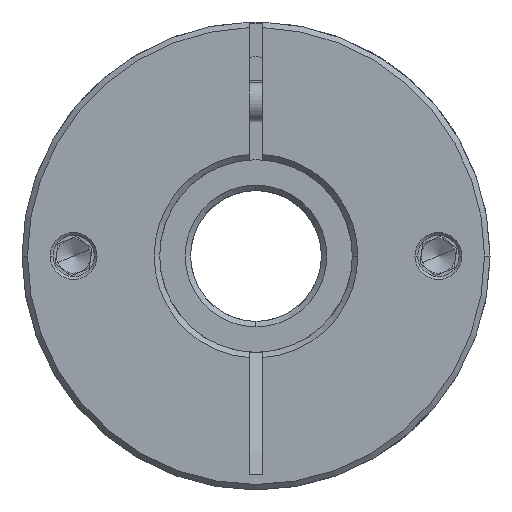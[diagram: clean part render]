
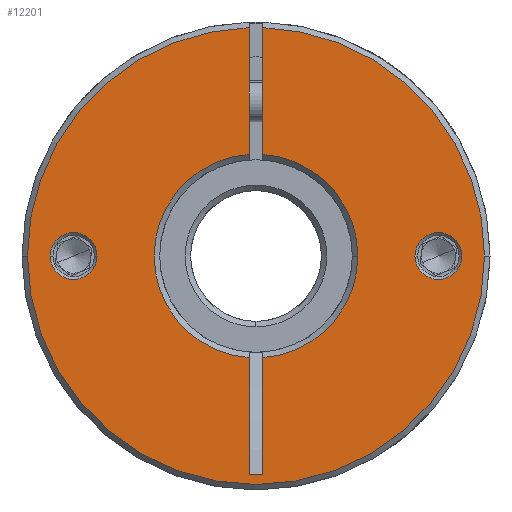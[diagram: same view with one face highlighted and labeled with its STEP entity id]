
A CAD part, front view. The second image highlights one B-rep face of the part: STEP entity #12201.
In plain terms, the highlighted planar face has unit normal (0, -1, 0).
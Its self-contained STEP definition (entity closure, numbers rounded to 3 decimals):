
#10 = EDGE_LOOP ( 'NONE', ( #7851, #4300, #3504, #9979, #8979, #4829, #10048, #733, #3011, #3412, #1187 ) ) ;
#64 = DIRECTION ( 'NONE',  ( 0., 1., 0. ) ) ;
#73 = LINE ( 'NONE', #7085, #3783 ) ;
#106 = LINE ( 'NONE', #2255, #5099 ) ;
#141 = ORIENTED_EDGE ( 'NONE', *, *, #3343, .T. ) ;
#446 = CARTESIAN_POINT ( 'NONE',  ( 23.765, -47.045, 68. ) ) ;
#479 = VERTEX_POINT ( 'NONE', #6414 ) ;
#710 = DIRECTION ( 'NONE',  ( -1., 0., 0. ) ) ;
#733 = ORIENTED_EDGE ( 'NONE', *, *, #12853, .T. ) ;
#823 = AXIS2_PLACEMENT_3D ( 'NONE', #9856, #1696, #11023 ) ;
#876 = CIRCLE ( 'NONE', #10418, 33.2 ) ;
#980 = DIRECTION ( 'NONE',  ( 1., 0., 0. ) ) ;
#1012 = CIRCLE ( 'NONE', #2108, 14.8 ) ;
#1187 = ORIENTED_EDGE ( 'NONE', *, *, #6849, .T. ) ;
#1213 = CARTESIAN_POINT ( 'NONE',  ( -3.735, -47.045, 36.279 ) ) ;
#1422 = DIRECTION ( 'NONE',  ( 0., 0., -1. ) ) ;
#1473 = DIRECTION ( 'NONE',  ( 0., 1., 0. ) ) ;
#1696 = DIRECTION ( 'NONE',  ( 0., 1., 0. ) ) ;
#1790 = EDGE_CURVE ( 'NONE', #3158, #3177, #10876, .T. ) ;
#1852 = VERTEX_POINT ( 'NONE', #8829 ) ;
#2065 = DIRECTION ( 'NONE',  ( 1., 0., 0. ) ) ;
#2071 = LINE ( 'NONE', #11244, #6917 ) ;
#2084 = EDGE_CURVE ( 'NONE', #1852, #13047, #4268, .T. ) ;
#2108 = AXIS2_PLACEMENT_3D ( 'NONE', #10658, #1473, #5470 ) ;
#2138 = FACE_BOUND ( 'NONE', #4310, .T. ) ;
#2154 = VERTEX_POINT ( 'NONE', #8608 ) ;
#2231 = VERTEX_POINT ( 'NONE', #10934 ) ;
#2255 = CARTESIAN_POINT ( 'NONE',  ( -3.735, -47.045, 68. ) ) ;
#2416 = VECTOR ( 'NONE', #1422, 1000. ) ;
#2523 = VERTEX_POINT ( 'NONE', #13441 ) ;
#2673 = DIRECTION ( 'NONE',  ( 0., -1., 0. ) ) ;
#2854 = AXIS2_PLACEMENT_3D ( 'NONE', #11821, #2673, #4611 ) ;
#2899 = EDGE_CURVE ( 'NONE', #6843, #10646, #3431, .T. ) ;
#3008 = DIRECTION ( 'NONE',  ( 1., 0., 0. ) ) ;
#3011 = ORIENTED_EDGE ( 'NONE', *, *, #9696, .T. ) ;
#3158 = VERTEX_POINT ( 'NONE', #10567 ) ;
#3177 = VERTEX_POINT ( 'NONE', #6468 ) ;
#3247 = EDGE_CURVE ( 'NONE', #2154, #5672, #1012, .T. ) ;
#3343 = EDGE_CURVE ( 'NONE', #13061, #2231, #4240, .T. ) ;
#3412 = ORIENTED_EDGE ( 'NONE', *, *, #2084, .F. ) ;
#3431 = CIRCLE ( 'NONE', #12196, 3.4 ) ;
#3504 = ORIENTED_EDGE ( 'NONE', *, *, #1790, .T. ) ;
#3552 = DIRECTION ( 'NONE',  ( 0., 1., 0. ) ) ;
#3743 = EDGE_CURVE ( 'NONE', #2231, #13061, #5985, .T. ) ;
#3783 = VECTOR ( 'NONE', #6101, 1000. ) ;
#3823 = DIRECTION ( 'NONE',  ( 1., 0., 0. ) ) ;
#3908 = AXIS2_PLACEMENT_3D ( 'NONE', #8986, #13100, #4724 ) ;
#3940 = CARTESIAN_POINT ( 'NONE',  ( -3.735, -47.045, 101.185 ) ) ;
#4090 = DIRECTION ( 'NONE',  ( 0., 1., 0. ) ) ;
#4240 = CIRCLE ( 'NONE', #823, 3.4 ) ;
#4261 = EDGE_CURVE ( 'NONE', #479, #2523, #6937, .T. ) ;
#4268 = LINE ( 'NONE', #5552, #10905 ) ;
#4300 = ORIENTED_EDGE ( 'NONE', *, *, #10392, .T. ) ;
#4310 = EDGE_LOOP ( 'NONE', ( #12724, #141 ) ) ;
#4611 = DIRECTION ( 'NONE',  ( 1., 0., 0. ) ) ;
#4724 = DIRECTION ( 'NONE',  ( 1., 0., 0. ) ) ;
#4829 = ORIENTED_EDGE ( 'NONE', *, *, #5399, .T. ) ;
#5083 = EDGE_LOOP ( 'NONE', ( #10043, #11097 ) ) ;
#5099 = VECTOR ( 'NONE', #7283, 1000. ) ;
#5181 = DIRECTION ( 'NONE',  ( 0., 1., 0. ) ) ;
#5399 = EDGE_CURVE ( 'NONE', #2523, #2154, #8248, .T. ) ;
#5456 = CIRCLE ( 'NONE', #3908, 33.2 ) ;
#5470 = DIRECTION ( 'NONE',  ( 1., 0., 0. ) ) ;
#5552 = CARTESIAN_POINT ( 'NONE',  ( -3.735, -47.045, 68. ) ) ;
#5672 = VERTEX_POINT ( 'NONE', #10064 ) ;
#5705 = DIRECTION ( 'NONE',  ( 1., 0., 0. ) ) ;
#5765 = DIRECTION ( 'NONE',  ( 1., 0., 0. ) ) ;
#5981 = CARTESIAN_POINT ( 'NONE',  ( -2.735, -47.045, 68. ) ) ;
#5985 = CIRCLE ( 'NONE', #6229, 3.4 ) ;
#6101 = DIRECTION ( 'NONE',  ( 0., 0., -1. ) ) ;
#6229 = AXIS2_PLACEMENT_3D ( 'NONE', #446, #3552, #5705 ) ;
#6276 = AXIS2_PLACEMENT_3D ( 'NONE', #9205, #4090, #3008 ) ;
#6414 = CARTESIAN_POINT ( 'NONE',  ( -1.735, -47.045, 101.185 ) ) ;
#6468 = CARTESIAN_POINT ( 'NONE',  ( 30.465, -47.045, 68. ) ) ;
#6661 = EDGE_CURVE ( 'NONE', #11693, #12918, #106, .T. ) ;
#6843 = VERTEX_POINT ( 'NONE', #7593 ) ;
#6849 = EDGE_CURVE ( 'NONE', #1852, #12918, #10637, .T. ) ;
#6917 = VECTOR ( 'NONE', #710, 1000. ) ;
#6937 = LINE ( 'NONE', #7540, #2416 ) ;
#7085 = CARTESIAN_POINT ( 'NONE',  ( -1.735, -47.045, 68. ) ) ;
#7275 = DIRECTION ( 'NONE',  ( 0., -1., 0. ) ) ;
#7283 = DIRECTION ( 'NONE',  ( 0., 0., -1. ) ) ;
#7540 = CARTESIAN_POINT ( 'NONE',  ( -1.735, -47.045, 68. ) ) ;
#7593 = CARTESIAN_POINT ( 'NONE',  ( -32.635, -47.045, 68. ) ) ;
#7706 = CARTESIAN_POINT ( 'NONE',  ( -25.835, -47.045, 68. ) ) ;
#7829 = FACE_OUTER_BOUND ( 'NONE', #10, .T. ) ;
#7851 = ORIENTED_EDGE ( 'NONE', *, *, #6661, .F. ) ;
#8090 = DIRECTION ( 'NONE',  ( 0., -1., 0. ) ) ;
#8248 = CIRCLE ( 'NONE', #10711, 14.8 ) ;
#8268 = CARTESIAN_POINT ( 'NONE',  ( -1.735, -47.045, 36.279 ) ) ;
#8433 = CARTESIAN_POINT ( 'NONE',  ( -2.735, -47.045, 68. ) ) ;
#8608 = CARTESIAN_POINT ( 'NONE',  ( 12.065, -47.045, 68. ) ) ;
#8642 = FACE_BOUND ( 'NONE', #5083, .T. ) ;
#8829 = CARTESIAN_POINT ( 'NONE',  ( -3.735, -47.045, 53.234 ) ) ;
#8979 = ORIENTED_EDGE ( 'NONE', *, *, #4261, .T. ) ;
#8986 = CARTESIAN_POINT ( 'NONE',  ( -2.735, -47.045, 68. ) ) ;
#9062 = EDGE_CURVE ( 'NONE', #10646, #6843, #13317, .T. ) ;
#9142 = AXIS2_PLACEMENT_3D ( 'NONE', #11018, #12961, #5765 ) ;
#9205 = CARTESIAN_POINT ( 'NONE',  ( -29.235, -47.045, 68. ) ) ;
#9305 = CARTESIAN_POINT ( 'NONE',  ( -3.735, -47.045, 82.766 ) ) ;
#9696 = EDGE_CURVE ( 'NONE', #11814, #13047, #2071, .T. ) ;
#9856 = CARTESIAN_POINT ( 'NONE',  ( 23.765, -47.045, 68. ) ) ;
#9979 = ORIENTED_EDGE ( 'NONE', *, *, #13378, .T. ) ;
#10043 = ORIENTED_EDGE ( 'NONE', *, *, #9062, .T. ) ;
#10048 = ORIENTED_EDGE ( 'NONE', *, *, #3247, .T. ) ;
#10064 = CARTESIAN_POINT ( 'NONE',  ( -1.735, -47.045, 53.234 ) ) ;
#10316 = PLANE ( 'NONE',  #11217 ) ;
#10392 = EDGE_CURVE ( 'NONE', #11693, #3158, #5456, .T. ) ;
#10418 = AXIS2_PLACEMENT_3D ( 'NONE', #5981, #8090, #3823 ) ;
#10567 = CARTESIAN_POINT ( 'NONE',  ( -35.935, -47.045, 68. ) ) ;
#10637 = CIRCLE ( 'NONE', #9142, 14.8 ) ;
#10646 = VERTEX_POINT ( 'NONE', #7706 ) ;
#10658 = CARTESIAN_POINT ( 'NONE',  ( -2.735, -47.045, 68. ) ) ;
#10711 = AXIS2_PLACEMENT_3D ( 'NONE', #8433, #5181, #2065 ) ;
#10876 = CIRCLE ( 'NONE', #2854, 33.2 ) ;
#10905 = VECTOR ( 'NONE', #12546, 1000. ) ;
#10934 = CARTESIAN_POINT ( 'NONE',  ( 27.165, -47.045, 68. ) ) ;
#11018 = CARTESIAN_POINT ( 'NONE',  ( -2.735, -47.045, 68. ) ) ;
#11023 = DIRECTION ( 'NONE',  ( 1., 0., 0. ) ) ;
#11097 = ORIENTED_EDGE ( 'NONE', *, *, #2899, .T. ) ;
#11217 = AXIS2_PLACEMENT_3D ( 'NONE', #11482, #7275, #12394 ) ;
#11244 = CARTESIAN_POINT ( 'NONE',  ( -3.735, -47.045, 36.279 ) ) ;
#11482 = CARTESIAN_POINT ( 'NONE',  ( -2.735, -47.045, 68. ) ) ;
#11666 = CARTESIAN_POINT ( 'NONE',  ( 20.365, -47.045, 68. ) ) ;
#11693 = VERTEX_POINT ( 'NONE', #3940 ) ;
#11814 = VERTEX_POINT ( 'NONE', #8268 ) ;
#11821 = CARTESIAN_POINT ( 'NONE',  ( -2.735, -47.045, 68. ) ) ;
#12196 = AXIS2_PLACEMENT_3D ( 'NONE', #13406, #64, #980 ) ;
#12201 = ADVANCED_FACE ( 'NONE', ( #2138, #8642, #7829 ), #10316, .T. ) ;
#12394 = DIRECTION ( 'NONE',  ( 1., 0., 0. ) ) ;
#12546 = DIRECTION ( 'NONE',  ( 0., 0., -1. ) ) ;
#12724 = ORIENTED_EDGE ( 'NONE', *, *, #3743, .T. ) ;
#12853 = EDGE_CURVE ( 'NONE', #5672, #11814, #73, .T. ) ;
#12918 = VERTEX_POINT ( 'NONE', #9305 ) ;
#12961 = DIRECTION ( 'NONE',  ( 0., 1., 0. ) ) ;
#13047 = VERTEX_POINT ( 'NONE', #1213 ) ;
#13061 = VERTEX_POINT ( 'NONE', #11666 ) ;
#13100 = DIRECTION ( 'NONE',  ( 0., -1., 0. ) ) ;
#13317 = CIRCLE ( 'NONE', #6276, 3.4 ) ;
#13378 = EDGE_CURVE ( 'NONE', #3177, #479, #876, .T. ) ;
#13406 = CARTESIAN_POINT ( 'NONE',  ( -29.235, -47.045, 68. ) ) ;
#13441 = CARTESIAN_POINT ( 'NONE',  ( -1.735, -47.045, 82.766 ) ) ;
